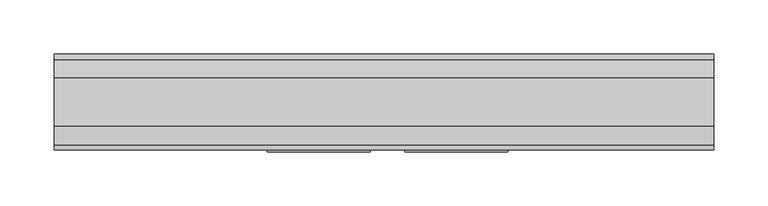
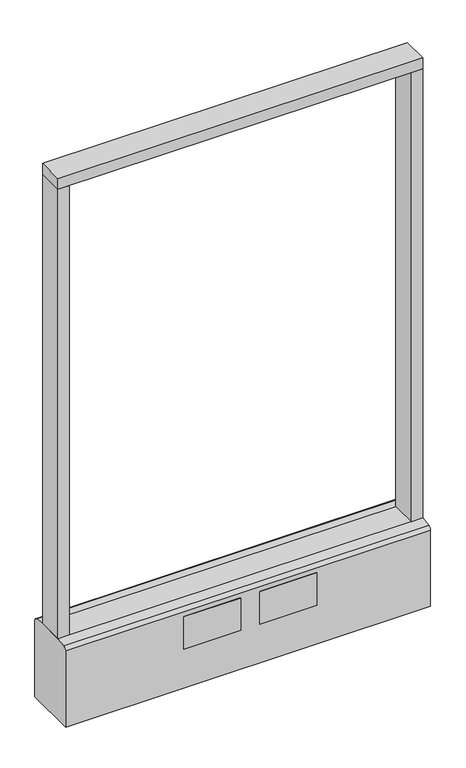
"""IFC4 building model written with IfcOpenShell, lengths in millimetres: furniture geometry."""

import ifcopenshell
import ifcopenshell.guid

model = None  # the IFC model being written
_history = None  # IfcOwnerHistory: only IFC2X3 demands one
_inside = {}  # id of a spatial element -> (the spatial element, [elements in it])
_under = {}  # id of a project, library or spatial element -> (it, [spatial elements below it])
_declared = {}  # id of a project -> (the project, [libraries it declares])
_typed = {}  # id of a type object -> (the type object, [elements of that type])
_made_of = {}  # id of a material, layer set ... -> (it, [elements and type objects made of it])


def new_model(schema):
    """Start an empty IFC model of exactly this schema.

    Asked for "IFC4X3", IfcOpenShell would pick the latest addendum, in which some entities
    have other attributes; the version numbers below select the first issue.
    IFC2X3 requires an IfcOwnerHistory on every rooted entity: one is made here for all.
    """
    global model, _history
    if schema == "IFC4X3":
        model = ifcopenshell.file(schema_version=(4, 3, 0, 0))
    else:
        model = ifcopenshell.file(schema=schema)
    _inside.clear()
    _under.clear()
    _declared.clear()
    _typed.clear()
    _made_of.clear()
    _history = None
    if model.schema == "IFC2X3":
        org = make("IfcOrganization", Name="unknown")
        user = make(
            "IfcPersonAndOrganization",
            ThePerson=make("IfcPerson", FamilyName="unknown"),
            TheOrganization=org,
        )
        app = make(
            "IfcApplication",
            ApplicationDeveloper=org,
            Version="unknown",
            ApplicationFullName="unknown",
            ApplicationIdentifier="unknown",
        )
        _history = make(
            "IfcOwnerHistory",
            OwningUser=user,
            OwningApplication=app,
            ChangeAction="ADDED",
            CreationDate=0,
        )
    return model


def make(cls, **values):
    """One entity of the class cls with the attributes given. An attribute that is None is left unset."""
    return model.create_entity(
        cls, **{name: value for name, value in values.items() if value is not None}
    )


def rooted(cls, **values):
    """An entity with a GlobalId (a new one), such as an element, a storey or a relation."""
    return make(cls, GlobalId=ifcopenshell.guid.new(), OwnerHistory=_history, **values)


def si_unit(unit_type, name, prefix=None):
    """IfcSIUnit, for example si_unit("LENGTHUNIT", "METRE", prefix="MILLI")."""
    return make("IfcSIUnit", UnitType=unit_type, Prefix=prefix, Name=name)


def assignment(units):
    """IfcUnitAssignment: the units of a project."""
    return None if units is None else make("IfcUnitAssignment", Units=units)


def point(xyz):
    """IfcCartesianPoint."""
    return None if xyz is None else make("IfcCartesianPoint", Coordinates=xyz)


def direction(xyz):
    """IfcDirection."""
    return None if xyz is None else make("IfcDirection", DirectionRatios=xyz)


def frame(location, z_axis=None, x_axis=None):
    """IfcAxis2Placement3D, a coordinate frame: its origin and axes. An axis left out is left unset."""
    return make(
        "IfcAxis2Placement3D",
        Location=point(location),
        Axis=direction(z_axis),
        RefDirection=direction(x_axis),
    )


def frame_2d(location, x_axis=None):
    """IfcAxis2Placement2D, a coordinate frame in the plane: its origin and x axis."""
    return make(
        "IfcAxis2Placement2D", Location=point(location), RefDirection=direction(x_axis)
    )


def origin():
    """The frame at (0, 0, 0) with its axes left unset."""
    return frame((0.0, 0.0, 0.0))


def origin_with_axes():
    """The frame at (0, 0, 0) with the z axis (0, 0, 1) and the x axis (1, 0, 0) written out."""
    return frame((0.0, 0.0, 0.0), z_axis=(0.0, 0.0, 1.0), x_axis=(1.0, 0.0, 0.0))


def place(relative_to, where):
    """IfcLocalPlacement: puts the frame where relative to a parent placement (None: the world)."""
    return make(
        "IfcLocalPlacement", PlacementRelTo=relative_to, RelativePlacement=where
    )


def context(
    kind, dimensions, precision=None, world=None, true_north=None, identifier=None
):
    """IfcGeometricRepresentationContext, for example the 3D "Model" context."""
    return make(
        "IfcGeometricRepresentationContext",
        ContextIdentifier=identifier,
        ContextType=kind,
        CoordinateSpaceDimension=dimensions,
        Precision=precision,
        WorldCoordinateSystem=world,
        TrueNorth=true_north,
    )


def project(units=None, contexts=None):
    """IfcProject with its units and contexts."""
    return rooted(
        "IfcProject",
        Name="project",
        RepresentationContexts=contexts,
        UnitsInContext=assignment(units),
    )


def spatial(cls, under=None, at=None, **own):
    """A site, building, storey or space (cls), placed at a placement, below another one or the project."""
    s = rooted(cls, ObjectPlacement=at, **own)
    if under is not None:
        _under.setdefault(under.id(), (under, []))[1].append(s)
    return s


def polyline(points):
    """IfcPolyline through the points."""
    return make("IfcPolyline", Points=[point(p) for p in points])


def circle_curve(where, radius):
    """IfcCircle in the frame where."""
    return make("IfcCircle", Position=where, Radius=radius)


def trimmed(basis, trim1, trim2, sense, master):
    """IfcTrimmedCurve: the piece of a basis curve between two trims."""
    return make(
        "IfcTrimmedCurve",
        BasisCurve=basis,
        Trim1=trim1,
        Trim2=trim2,
        SenseAgreement=sense,
        MasterRepresentation=master,
    )


def segment(curve, same_sense, transition):
    """IfcCompositeCurveSegment."""
    return make(
        "IfcCompositeCurveSegment",
        Transition=transition,
        SameSense=same_sense,
        ParentCurve=curve,
    )


def composite_curve(segments, self_intersect=None):
    """IfcCompositeCurve: segments joined end to end."""
    return make("IfcCompositeCurve", Segments=segments, SelfIntersect=self_intersect)


def outline(outer, holes=None, kind="AREA"):
    """IfcArbitraryClosedProfileDef: a profile drawn as a closed curve; with holes, ...WithVoids."""
    if holes is None:
        return make("IfcArbitraryClosedProfileDef", ProfileType=kind, OuterCurve=outer)
    return make(
        "IfcArbitraryProfileDefWithVoids",
        ProfileType=kind,
        OuterCurve=outer,
        InnerCurves=holes,
    )


def extrude(swept, where, along, depth):
    """IfcExtrudedAreaSolid: the profile swept, set in the frame where, extruded along a direction by depth."""
    return make(
        "IfcExtrudedAreaSolid",
        SweptArea=swept,
        Position=where,
        ExtrudedDirection=direction(along),
        Depth=depth,
    )


def shape(context_of_items, identifier, shape_type, items):
    """IfcShapeRepresentation: the items that make up one representation, for example the "Body"."""
    return make(
        "IfcShapeRepresentation",
        ContextOfItems=context_of_items,
        RepresentationIdentifier=identifier,
        RepresentationType=shape_type,
        Items=items,
    )


def source(mapping_origin, context_of_items, identifier, shape_type, items):
    """IfcRepresentationMap: a shape defined once, which mapped items show again and again."""
    return make(
        "IfcRepresentationMap",
        MappingOrigin=mapping_origin,
        MappedRepresentation=shape(context_of_items, identifier, shape_type, items),
    )


def transform(
    local_origin,
    x_axis=None,
    y_axis=None,
    z_axis=None,
    scale=None,
    scale2=None,
    scale3=None,
    uniform=True,
):
    """IfcCartesianTransformationOperator3D, or its non-uniform kind. x_axis, y_axis, z_axis: its Axis1, 2, 3."""
    if uniform:
        return make(
            "IfcCartesianTransformationOperator3D",
            Axis1=direction(x_axis),
            Axis2=direction(y_axis),
            LocalOrigin=point(local_origin),
            Scale=scale,
            Axis3=direction(z_axis),
        )
    return make(
        "IfcCartesianTransformationOperator3DnonUniform",
        Axis1=direction(x_axis),
        Axis2=direction(y_axis),
        LocalOrigin=point(local_origin),
        Scale=scale,
        Axis3=direction(z_axis),
        Scale2=scale2,
        Scale3=scale3,
    )


def mapped(mapping_source, mapping_target):
    """IfcMappedItem: shows the shape of a source again, moved by a transform."""
    return make(
        "IfcMappedItem", MappingSource=mapping_source, MappingTarget=mapping_target
    )


def made_of(thing, what):
    """Note that an element or type object is made of a material, layer set ...; save() writes the relation."""
    if what is not None:
        _made_of.setdefault(what.id(), (what, []))[1].append(thing)
    return thing


def element(
    cls,
    number,
    at=None,
    inside=None,
    cuts=None,
    type_object=None,
    material=None,
    context=None,
    identifier="Body",
    shape_type=None,
    held_by="IfcProductDefinitionShape",
    body=None,
    shapes=None,
    **own,
):
    """One element of the class cls, such as IfcWall. Its Tag is "e" and its number.

    at: its placement. inside: the storey or other place that contains it. cuts: it is an
    opening in that element (IfcRelVoidsElement). A single representation is given by context,
    identifier, shape_type and body (its items); several are given by shapes. held_by: the class
    of the entity that holds the representations. save() writes the other relations.
    """
    e = rooted(cls, Tag="e%d" % number, ObjectPlacement=at, **own)
    if body is not None:
        shapes = [shape(context, identifier, shape_type, body)]
    if shapes is not None:
        e.Representation = make(held_by, Representations=shapes)
    if inside is not None:
        _inside.setdefault(inside.id(), (inside, []))[1].append(e)
    if cuts is not None:
        rooted(
            "IfcRelVoidsElement", RelatingBuildingElement=cuts, RelatedOpeningElement=e
        )
    if type_object is not None:
        _typed.setdefault(type_object.id(), (type_object, []))[1].append(e)
    return made_of(e, material)


def aggregate(whole, parts):
    """IfcRelAggregates: a whole, such as a stair, and the parts it consists of."""
    return rooted("IfcRelAggregates", RelatingObject=whole, RelatedObjects=parts)


def save(model, path):
    """Write the relations noted so far, then the file.

    IfcRelAggregates (storeys below a building ...), IfcRelContainedInSpatialStructure (elements
    in a storey), IfcRelDefinesByType, IfcRelAssociatesMaterial and IfcRelDeclares: one each for
    every whole, place, type object, material and project.
    """
    for whole, parts in _under.values():
        aggregate(whole, parts)
    for where, things in _inside.values():
        rooted(
            "IfcRelContainedInSpatialStructure",
            RelatedElements=things,
            RelatingStructure=where,
        )
    for kind, things in _typed.values():
        rooted("IfcRelDefinesByType", RelatedObjects=things, RelatingType=kind)
    for what, things in _made_of.values():
        rooted("IfcRelAssociatesMaterial", RelatedObjects=things, RelatingMaterial=what)
    for by, libraries in _declared.values():
        rooted("IfcRelDeclares", RelatingContext=by, RelatedDefinitions=libraries)
    model.write(path)


def furniture_82e04d0f(model_context):
    return source(origin(), model_context, "Body", "SweptSolid", [
        extrude(outline(polyline([(304.8, -22.225), (-304.8, -22.225), (-304.8, 22.225), (304.8, 22.225), (304.8, -22.225)])), frame((0.0, 0.0, 946.15), z_axis=(0.0, 0.0, 1.0), x_axis=(1.0, 0.0, 0.0)), (0.0, 0.0, 1.0), 19.05),
        extrude(outline(composite_curve([segment(trimmed(circle_curve(frame_2d((-228.6, 0.0)), 23.415625), [point((-252.015625, 0.0))], [point((-205.184375, 0.0))], False, "CARTESIAN"), True, "CONTINUOUS"), segment(trimmed(circle_curve(frame_2d((-228.6, 0.0)), 23.415625), [point((-205.184375, 0.0))], [point((-252.015625, 0.0))], False, "CARTESIAN"), True, "CONTINUOUS")], self_intersect=False)), origin_with_axes(), (0.0, 0.0, 1.0), 6.35),
        extrude(outline(composite_curve([segment(trimmed(circle_curve(frame_2d((228.6, 0.0)), 23.415625), [point((205.184375, 0.0))], [point((252.015625, 0.0))], False, "CARTESIAN"), True, "CONTINUOUS"), segment(trimmed(circle_curve(frame_2d((228.6, 0.0)), 23.415625), [point((252.015625, 0.0))], [point((205.184375, 0.0))], False, "CARTESIAN"), True, "CONTINUOUS")], self_intersect=False)), origin_with_axes(), (0.0, 0.0, 1.0), 6.35),
        extrude(outline(polyline([(-285.7500091, -22.225), (-304.8, -22.225), (-304.8, 22.225), (-285.7500091, 22.225), (-285.7500091, -22.225)])), frame((0.0, 0.0, 152.4), z_axis=(0.0, 0.0, 1.0), x_axis=(1.0, 0.0, 0.0)), (0.0, 0.0, 1.0), 793.75),
        extrude(outline(polyline([(304.8, -22.225), (285.7500091, -22.225), (285.7500091, 22.225), (304.8, 22.225), (304.8, -22.225)])), frame((0.0, 0.0, 152.4), z_axis=(0.0, 0.0, 1.0), x_axis=(1.0, 0.0, 0.0)), (0.0, 0.0, 1.0), 793.75),
        extrude(outline(composite_curve([segment(polyline([(-22.225, 152.4), (22.225, 152.4), (39.43219, 149.94183)]), True, "CONTINUOUS"), segment(trimmed(circle_curve(frame_2d((38.605678, 144.1562464)), 5.844322), [point((39.43219, 149.94183))], [point((44.45, 144.1562464))], False, "CARTESIAN"), True, "CONTINUOUS"), segment(polyline([(44.45, 144.1562464), (44.45, 9.525), (-44.4433083, 9.525), (-44.4433083, 144.1572033)]), True, "CONTINUOUS"), segment(trimmed(circle_curve(frame_2d((-38.5989863, 144.1572033)), 5.844322), [point((-44.4433083, 144.1572033))], [point((-39.4222979, 149.9432432))], False, "CARTESIAN"), True, "CONTINUOUS"), segment(polyline([(-39.4222979, 149.9432432), (-22.225, 152.4)]), True, "CONTINUOUS")], self_intersect=False)), frame((-304.8, 0.0, 0.0), z_axis=(1.0, 0.0, 0.0), x_axis=(0.0, 1.0, 0.0)), (0.0, 0.0, 1.0), 609.6),
        extrude(outline(polyline([(114.3, -46.0375), (19.05, -46.0375), (19.05, -44.45), (114.3, -44.45), (114.3, -46.0375)])), frame((0.0, 0.0, 79.1718), z_axis=(0.0, 0.0, 1.0), x_axis=(1.0, 0.0, 0.0)), (0.0, 0.0, 1.0), 57.15),
        extrude(outline(polyline([(-12.7, -46.0375), (-107.95, -46.0375), (-107.95, -44.45), (-12.7, -44.45), (-12.7, -46.0375)])), frame((0.0, 0.0, 79.1718), z_axis=(0.0, 0.0, 1.0), x_axis=(1.0, 0.0, 0.0)), (0.0, 0.0, 1.0), 57.15),
        extrude(outline(composite_curve([segment(trimmed(circle_curve(frame_2d((-228.6, 0.0)), 5.55625), [point((-234.15625, 0.0))], [point((-223.04375, 0.0))], False, "CARTESIAN"), True, "CONTINUOUS"), segment(trimmed(circle_curve(frame_2d((-228.6, 0.0)), 5.55625), [point((-223.04375, 0.0))], [point((-234.15625, 0.0))], False, "CARTESIAN"), True, "CONTINUOUS")], self_intersect=False)), frame((0.0, 0.0, 6.35), z_axis=(0.0, 0.0, 1.0), x_axis=(1.0, 0.0, 0.0)), (0.0, 0.0, 1.0), 3.175),
        extrude(outline(composite_curve([segment(trimmed(circle_curve(frame_2d((228.6, 0.0)), 5.55625), [point((223.04375, 0.0))], [point((234.15625, 0.0))], False, "CARTESIAN"), True, "CONTINUOUS"), segment(trimmed(circle_curve(frame_2d((228.6, 0.0)), 5.55625), [point((234.15625, 0.0))], [point((223.04375, 0.0))], False, "CARTESIAN"), True, "CONTINUOUS")], self_intersect=False)), frame((0.0, 0.0, 6.35), z_axis=(0.0, 0.0, 1.0), x_axis=(1.0, 0.0, 0.0)), (0.0, 0.0, 1.0), 3.175),
    ])


if __name__ == "__main__":
    model = new_model("IFC4")
    model_context = context("Model", 3, world=origin())
    ifc_project = project(units=[si_unit("LENGTHUNIT", "METRE", prefix="MILLI")], contexts=[model_context])
    site = spatial("IfcSite", under=ifc_project)
    building = spatial("IfcBuilding", under=site)
    placement = place(None, origin())
    furniture_shape = furniture_82e04d0f(model_context)
    element("IfcFurniture", 1, ObjectType="HermanMiller_Ethospace_E1109_Frame : 38\"H x 24\"W-H", at=placement, inside=building, context=model_context, shape_type="MappedRepresentation", body=[
        mapped(furniture_shape, transform((0.0, 0.0, 0.0), x_axis=(1.0, 0.0, 0.0), y_axis=(0.0, 1.0, 0.0), z_axis=(0.0, 0.0, 1.0))),
    ])
    save(model, "model.ifc")
